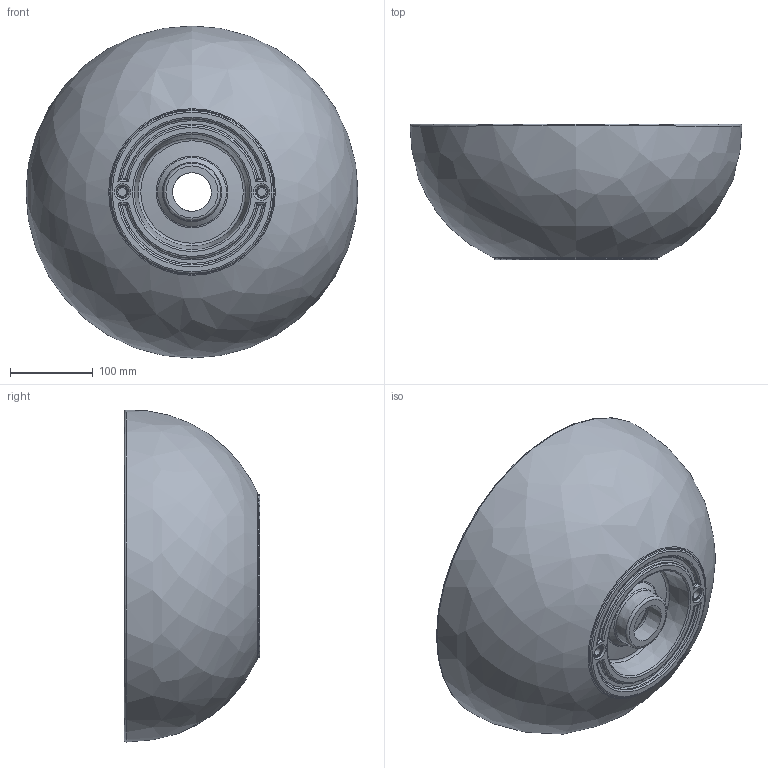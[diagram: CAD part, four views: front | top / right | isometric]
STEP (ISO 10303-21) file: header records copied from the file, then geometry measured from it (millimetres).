
FILE_DESCRIPTION(/* description */ (''),/* implementation_level */ '2;1');
FILE_NAME(/* name */ 'Modello_wb_HappyHourNewS_2017_08_25stp.prt.stp',/* time_stamp */ '2017-08-25T12:44:40+02:00',/* author */ (''),/* organization */ (''),/* preprocessor_version */ 'ST-DEVELOPER v16',/* originating_system */ 'SIEMENS PLM Software NX 11.0',/* authorisation */ '');
FILE_SCHEMA (('AUTOMOTIVE_DESIGN { 1 0 10303 214 3 1 1 1 }'));
Length unit declared in the file: millimetre
Products named in the file (1): Modello_wb_HappyHourNewS_2017_08_25stp
Bounding box: 402.3 x 164.05 x 402.3 mm (x, y, z)
Volume: 13508217.7 mm3; surface area: 1258714.9 mm2
Topology: 3 solids, 3 shells, 96 faces, 215 edges, 121 vertices
Faces by surface type: bspline 36, torus 23, cone 12, plane 12, cylinder 12, revolution 1
Full cylindrical faces by diameter (mm): 11 x2, 202 x2
Entity records: 3411 total; most frequent: CARTESIAN_POINT 1680, ORIENTED_EDGE 340, DIRECTION 299, EDGE_CURVE 170, AXIS2_PLACEMENT_3D 141, EDGE_LOOP 138, VERTEX_POINT 116, ADVANCED_FACE 96
